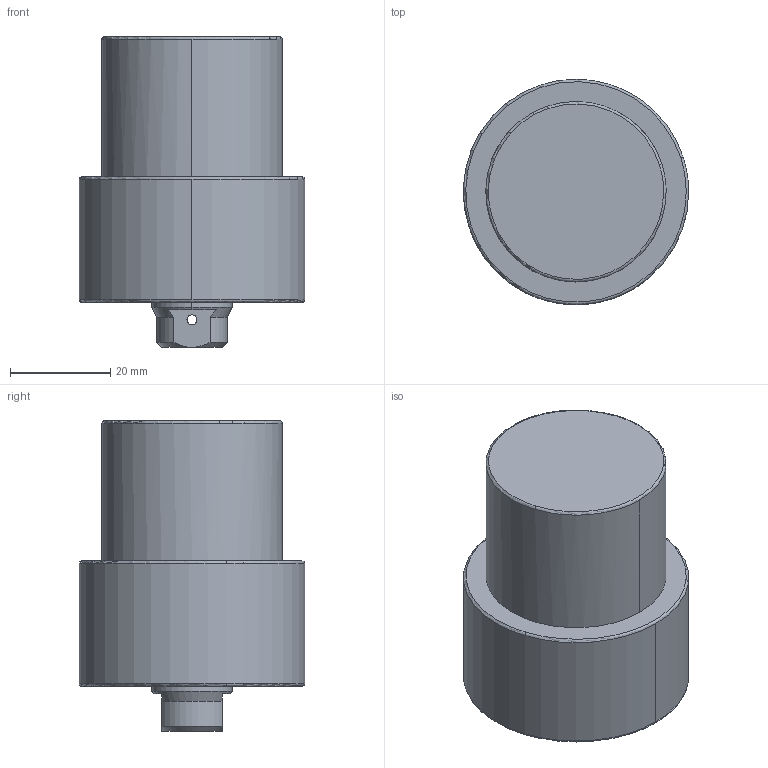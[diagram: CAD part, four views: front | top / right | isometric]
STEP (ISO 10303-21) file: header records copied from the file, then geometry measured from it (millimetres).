
FILE_DESCRIPTION((' '),'2;1');
FILE_NAME( 'TLLU-036GB-020.STEP.stp', '2025-10-24T16:37:05', (' '), ('--- Datakit www.datakit.com---'), ' Datakit CrossCadWare V2024.1 Dec 21 2023', 'Mastercam 2025', ' ');
FILE_SCHEMA(('AUTOMOTIVE_DESIGN { 1 0 10303 214 1 1 1 1 }'));
Length unit declared in the file: millimetre
Products named in the file (1): TLLU-036GB-020
Bounding box: 44.99 x 45 x 62 mm (x, y, z)
Volume: 68644.9 mm3; surface area: 11031.1 mm2
Topology: 1 solids, 1 shells, 66 faces, 192 edges, 125 vertices
Faces by surface type: cylinder 26, cone 24, plane 10, torus 6
Entity records: 2820 total; most frequent: CARTESIAN_POINT 1010, DIRECTION 412, ORIENTED_EDGE 364, EDGE_CURVE 182, AXIS2_PLACEMENT_3D 179, VERTEX_POINT 125, CIRCLE 112, EDGE_LOOP 77
